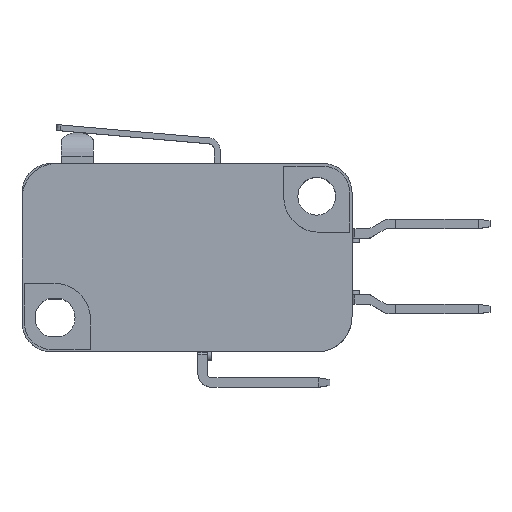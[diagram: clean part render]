
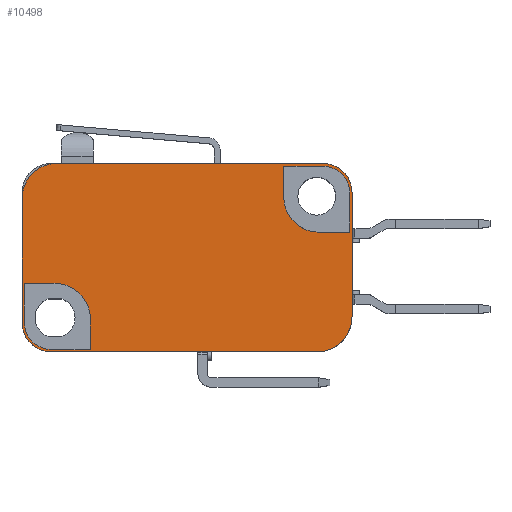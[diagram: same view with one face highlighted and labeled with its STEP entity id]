
A CAD part, top view. The second image highlights one B-rep face of the part: STEP entity #10498.
In plain terms, the highlighted planar face has unit normal (0, 0, 1).
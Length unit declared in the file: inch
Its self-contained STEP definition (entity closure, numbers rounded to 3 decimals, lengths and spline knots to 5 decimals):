
#71=DIRECTION('',(0.,1.,0.));
#72=VECTOR('',#71,10.5);
#73=CARTESIAN_POINT('',(28.,2.9,2.8));
#74=LINE('',#73,#72);
#872=DIRECTION('',(-1.,0.,0.));
#873=VECTOR('',#872,22.5);
#874=CARTESIAN_POINT('',(25.5,15.9,2.8));
#875=LINE('',#874,#873);
#1415=CARTESIAN_POINT('',(3.,12.9,2.8));
#1416=DIRECTION('',(0.,0.,-1.));
#1417=DIRECTION('',(-1.,0.,0.));
#1418=AXIS2_PLACEMENT_3D('',#1415,#1416,#1417);
#1420=CARTESIAN_POINT('',(25.5,13.4,2.8));
#1421=DIRECTION('',(0.,0.,-1.));
#1422=DIRECTION('',(0.,1.,0.));
#1423=AXIS2_PLACEMENT_3D('',#1420,#1421,#1422);
#1425=CARTESIAN_POINT('',(25.,2.9,2.8));
#1426=DIRECTION('',(0.,0.,-1.));
#1427=DIRECTION('',(1.,0.,0.));
#1428=AXIS2_PLACEMENT_3D('',#1425,#1426,#1427);
#1430=CARTESIAN_POINT('',(2.5,2.4,2.8));
#1431=DIRECTION('',(0.,0.,-1.));
#1432=DIRECTION('',(0.,-1.,0.));
#1433=AXIS2_PLACEMENT_3D('',#1430,#1431,#1432);
#1435=CARTESIAN_POINT('',(2.8,2.7,2.8));
#1436=DIRECTION('',(0.,0.,1.));
#1437=DIRECTION('',(1.,0.,0.));
#1438=AXIS2_PLACEMENT_3D('',#1435,#1436,#1437);
#1440=CARTESIAN_POINT('',(2.5,2.4,2.8));
#1441=DIRECTION('',(0.,0.,1.));
#1442=DIRECTION('',(-1.,0.,0.));
#1443=AXIS2_PLACEMENT_3D('',#1440,#1441,#1442);
#1445=CARTESIAN_POINT('',(25.2,13.05,2.8));
#1446=DIRECTION('',(0.,0.,1.));
#1447=DIRECTION('',(-1.,0.,0.));
#1448=AXIS2_PLACEMENT_3D('',#1445,#1446,#1447);
#1450=CARTESIAN_POINT('',(25.5,13.35,2.8));
#1451=DIRECTION('',(0.,0.,1.));
#1452=DIRECTION('',(1.,0.,0.));
#1453=AXIS2_PLACEMENT_3D('',#1450,#1451,#1452);
#1463=DIRECTION('',(1.,0.,0.));
#1464=VECTOR('',#1463,22.5);
#1465=CARTESIAN_POINT('',(2.5,-0.1,2.8));
#1466=LINE('',#1465,#1464);
#2363=DIRECTION('',(0.,-1.,0.));
#2364=VECTOR('',#2363,10.5);
#2365=CARTESIAN_POINT('',(0.,12.9,2.8));
#2366=LINE('',#2365,#2364);
#2387=DIRECTION('',(0.,-1.,0.));
#2388=VECTOR('',#2387,2.6);
#2389=CARTESIAN_POINT('',(5.8,2.7,2.8));
#2390=LINE('',#2389,#2388);
#2420=DIRECTION('',(-1.,0.,0.));
#2421=VECTOR('',#2420,3.3);
#2422=CARTESIAN_POINT('',(5.8,0.1,2.8));
#2423=LINE('',#2422,#2421);
#2436=DIRECTION('',(0.,1.,0.));
#2437=VECTOR('',#2436,3.3);
#2438=CARTESIAN_POINT('',(0.2,2.4,2.8));
#2439=LINE('',#2438,#2437);
#2460=DIRECTION('',(1.,0.,0.));
#2461=VECTOR('',#2460,2.6);
#2462=CARTESIAN_POINT('',(0.2,5.7,2.8));
#2463=LINE('',#2462,#2461);
#2593=DIRECTION('',(0.,1.,0.));
#2594=VECTOR('',#2593,2.6);
#2595=CARTESIAN_POINT('',(22.2,13.05,2.8));
#2596=LINE('',#2595,#2594);
#2621=DIRECTION('',(1.,0.,0.));
#2622=VECTOR('',#2621,3.3);
#2623=CARTESIAN_POINT('',(22.2,15.65,2.8));
#2624=LINE('',#2623,#2622);
#2637=DIRECTION('',(0.,-1.,0.));
#2638=VECTOR('',#2637,3.3);
#2639=CARTESIAN_POINT('',(27.8,13.35,2.8));
#2640=LINE('',#2639,#2638);
#2661=DIRECTION('',(-1.,0.,0.));
#2662=VECTOR('',#2661,2.6);
#2663=CARTESIAN_POINT('',(27.8,10.05,2.8));
#2664=LINE('',#2663,#2662);
#7174=CARTESIAN_POINT('',(0.,12.9,2.8));
#7175=CARTESIAN_POINT('',(3.,15.9,2.8));
#7176=VERTEX_POINT('',#7174);
#7177=VERTEX_POINT('',#7175);
#7178=CARTESIAN_POINT('',(25.5,15.9,2.8));
#7179=VERTEX_POINT('',#7178);
#7180=CARTESIAN_POINT('',(28.,13.4,2.8));
#7181=VERTEX_POINT('',#7180);
#7182=CARTESIAN_POINT('',(28.,2.9,2.8));
#7183=VERTEX_POINT('',#7182);
#7184=CARTESIAN_POINT('',(25.,-0.1,2.8));
#7185=VERTEX_POINT('',#7184);
#7186=CARTESIAN_POINT('',(2.5,-0.1,2.8));
#7187=VERTEX_POINT('',#7186);
#7188=CARTESIAN_POINT('',(0.,2.4,2.8));
#7189=VERTEX_POINT('',#7188);
#7190=CARTESIAN_POINT('',(5.8,2.7,2.8));
#7191=CARTESIAN_POINT('',(5.8,0.1,2.8));
#7192=VERTEX_POINT('',#7190);
#7193=VERTEX_POINT('',#7191);
#7194=CARTESIAN_POINT('',(0.2,5.7,2.8));
#7195=CARTESIAN_POINT('',(2.8,5.7,2.8));
#7196=VERTEX_POINT('',#7194);
#7197=VERTEX_POINT('',#7195);
#7198=CARTESIAN_POINT('',(0.2,2.4,2.8));
#7199=VERTEX_POINT('',#7198);
#7200=CARTESIAN_POINT('',(2.5,0.1,2.8));
#7201=VERTEX_POINT('',#7200);
#7202=CARTESIAN_POINT('',(22.2,13.05,2.8));
#7203=CARTESIAN_POINT('',(22.2,15.65,2.8));
#7204=VERTEX_POINT('',#7202);
#7205=VERTEX_POINT('',#7203);
#7206=CARTESIAN_POINT('',(27.8,10.05,2.8));
#7207=CARTESIAN_POINT('',(25.2,10.05,2.8));
#7208=VERTEX_POINT('',#7206);
#7209=VERTEX_POINT('',#7207);
#7210=CARTESIAN_POINT('',(27.8,13.35,2.8));
#7211=VERTEX_POINT('',#7210);
#7212=CARTESIAN_POINT('',(25.5,15.65,2.8));
#7213=VERTEX_POINT('',#7212);
#10451=CARTESIAN_POINT('',(14.,7.9,2.8));
#10452=DIRECTION('',(0.,0.,1.));
#10453=DIRECTION('',(-1.,0.,0.));
#10454=AXIS2_PLACEMENT_3D('',#10451,#10452,#10453);
#10455=PLANE('',#10454);
#10456=ORIENTED_EDGE('',*,*,#10444,.T.);
#10457=ORIENTED_EDGE('',*,*,#9539,.F.);
#10459=ORIENTED_EDGE('',*,*,#10458,.T.);
#10460=ORIENTED_EDGE('',*,*,#8327,.F.);
#10461=ORIENTED_EDGE('',*,*,#8372,.T.);
#10463=ORIENTED_EDGE('',*,*,#10462,.F.);
#10465=ORIENTED_EDGE('',*,*,#10464,.T.);
#10467=ORIENTED_EDGE('',*,*,#10466,.F.);
#10468=EDGE_LOOP('',(#10456,#10457,#10459,#10460,#10461,#10463,#10465,#10467));
#10469=FACE_OUTER_BOUND('',#10468,.F.);
#10471=ORIENTED_EDGE('',*,*,#10470,.F.);
#10473=ORIENTED_EDGE('',*,*,#10472,.T.);
#10475=ORIENTED_EDGE('',*,*,#10474,.F.);
#10477=ORIENTED_EDGE('',*,*,#10476,.F.);
#10479=ORIENTED_EDGE('',*,*,#10478,.T.);
#10481=ORIENTED_EDGE('',*,*,#10480,.F.);
#10482=EDGE_LOOP('',(#10471,#10473,#10475,#10477,#10479,#10481));
#10483=FACE_BOUND('',#10482,.F.);
#10485=ORIENTED_EDGE('',*,*,#10484,.F.);
#10487=ORIENTED_EDGE('',*,*,#10486,.T.);
#10489=ORIENTED_EDGE('',*,*,#10488,.F.);
#10491=ORIENTED_EDGE('',*,*,#10490,.F.);
#10493=ORIENTED_EDGE('',*,*,#10492,.T.);
#10495=ORIENTED_EDGE('',*,*,#10494,.F.);
#10496=EDGE_LOOP('',(#10485,#10487,#10489,#10491,#10493,#10495));
#10497=FACE_BOUND('',#10496,.F.);
#10498=ADVANCED_FACE('',(#10469,#10483,#10497),#10455,.T.);
#1419=CIRCLE('',#1418,3.);
#1424=CIRCLE('',#1423,2.5);
#1429=CIRCLE('',#1428,3.);
#1434=CIRCLE('',#1433,2.5);
#1439=CIRCLE('',#1438,3.);
#1444=CIRCLE('',#1443,2.3);
#1449=CIRCLE('',#1448,3.);
#1454=CIRCLE('',#1453,2.3);
#8327=EDGE_CURVE('',#7183,#7181,#74,.T.);
#8372=EDGE_CURVE('',#7183,#7185,#1429,.T.);
#9539=EDGE_CURVE('',#7179,#7177,#875,.T.);
#10444=EDGE_CURVE('',#7176,#7177,#1419,.T.);
#10458=EDGE_CURVE('',#7179,#7181,#1424,.T.);
#10462=EDGE_CURVE('',#7187,#7185,#1466,.T.);
#10464=EDGE_CURVE('',#7187,#7189,#1434,.T.);
#10466=EDGE_CURVE('',#7176,#7189,#2366,.T.);
#10470=EDGE_CURVE('',#7192,#7193,#2390,.T.);
#10472=EDGE_CURVE('',#7192,#7197,#1439,.T.);
#10474=EDGE_CURVE('',#7196,#7197,#2463,.T.);
#10476=EDGE_CURVE('',#7199,#7196,#2439,.T.);
#10478=EDGE_CURVE('',#7199,#7201,#1444,.T.);
#10480=EDGE_CURVE('',#7193,#7201,#2423,.T.);
#10484=EDGE_CURVE('',#7204,#7205,#2596,.T.);
#10486=EDGE_CURVE('',#7204,#7209,#1449,.T.);
#10488=EDGE_CURVE('',#7208,#7209,#2664,.T.);
#10490=EDGE_CURVE('',#7211,#7208,#2640,.T.);
#10492=EDGE_CURVE('',#7211,#7213,#1454,.T.);
#10494=EDGE_CURVE('',#7205,#7213,#2624,.T.);
